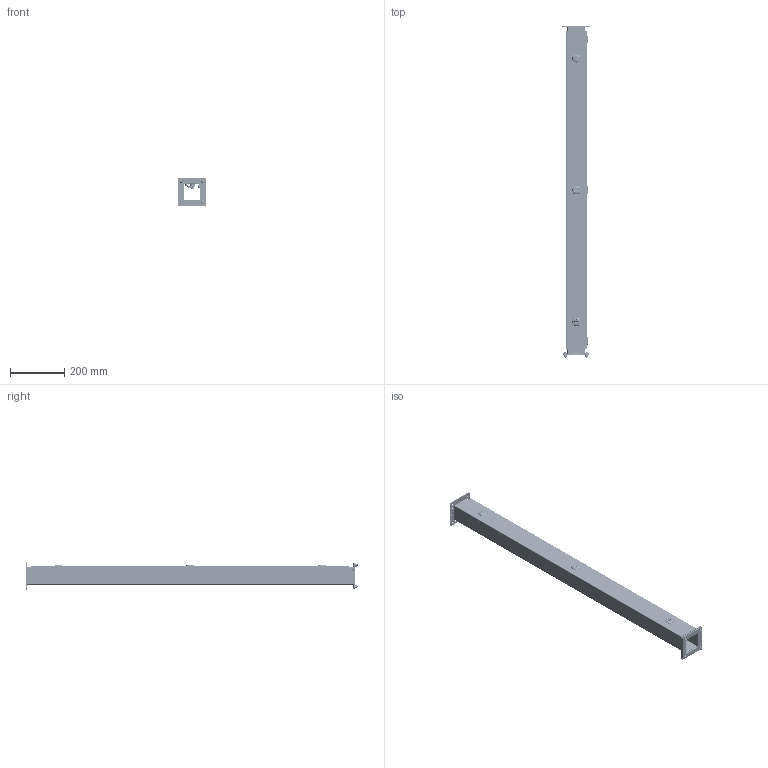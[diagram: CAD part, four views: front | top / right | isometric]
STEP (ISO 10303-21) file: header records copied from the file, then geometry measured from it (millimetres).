
FILE_DESCRIPTION(/* description */ ('1412SS 48" x 2.5" x 2.5" Assembly'),/* implementation_level */ '2;1');
FILE_NAME(/* name */ '1412SS2048.stp',/* time_stamp */ '2024-09-30T17:08:32-04:00',/* author */ ('BoxCad'),/* organization */ (''),/* preprocessor_version */ 'ST-DEVELOPER v20',/* originating_system */ 'Autodesk Inventor 2024',/* authorisation */ '');
FILE_SCHEMA (('AUTOMOTIVE_DESIGN { 1 0 10303 214 3 1 1 }'));
Products named in the file (44): 1412SS2048; 1412SS2048B; 1412SS2048B-P; 1412SS2048C; 1412SS2048C-P; STK-P-02400S; 1412SS2048G; STK-A-33033-1; STK-A-33033-2; STK-A-33033-3; STK-Q-33033-B; STK-Q-33033-S; STK-Q-33033-G; STK-A-880SCQ4CH-SL-1; STK-A-880SCQ4CH-SL-2; STK-A-880SCQ4CH-SL-3; STK-Q-78111; STK-Q-78120; STK-Q-03200; STK-Q-78141; STK-Q-90390; STK-Q-78160; STK-Q-78555; STK-Q-78111-R; STK-A-08126-1; STK-Q-08110_1; STK-A-08126-2; STK-Q-08110_2; STK-A-08126-3; STK-Q-10258; STK-Q-10258-A; STK-Q-10258-B; STK-Q-08110_3; STK-Q-08110-A-1; STK-Q-08110-B; 1412SS2048BC-P; STK-G-01600; STK-Q-07225-1; STK-Q-07225-2; STK-Q-07225-3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
Assembly tree (82 placements, depth 4):
  1412SS2048
    1412SS2048B
      1412SS2048B-P
      STK-P-02400S
    1412SS2048C
      1412SS2048C-P
      STK-P-02400S
      1412SS2048G
      STK-A-33033-1
        STK-Q-33033-B
        STK-Q-33033-S
        STK-Q-33033-G
      STK-A-33033-2
        STK-Q-33033-B
        STK-Q-33033-S
        STK-Q-33033-G
      STK-A-33033-3
        STK-Q-33033-B
        STK-Q-33033-S
        STK-Q-33033-G
      STK-A-880SCQ4CH-SL-1
        STK-Q-78111
        STK-Q-78120
        STK-Q-03200
        STK-Q-78141
        STK-Q-90390
        STK-Q-78160
        STK-Q-78555
        STK-Q-78111-R
      STK-A-880SCQ4CH-SL-2
        STK-Q-78111
        STK-Q-78120
        STK-Q-03200
        STK-Q-78141
        STK-Q-90390
        STK-Q-78160
        STK-Q-78555
        STK-Q-78111-R
      STK-A-880SCQ4CH-SL-3
        STK-Q-78111
        STK-Q-78120
        STK-Q-03200
        STK-Q-78141
        STK-Q-90390
        STK-Q-78160
        STK-Q-78555
        STK-Q-78111-R
    STK-A-08126-1
      STK-Q-10258
        STK-Q-10258-A
        STK-Q-10258-B
      STK-Q-08110_1
        STK-Q-08110-A-1
        STK-Q-08110-B
    STK-A-08126-2
      STK-Q-10258
        STK-Q-10258-A
        STK-Q-10258-B
      STK-Q-08110_2
        STK-Q-08110-A-1
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Bounding box: 104.78 x 1228.34 x 104.78 mm (x, y, z)
Volume: 786891 mm3; surface area: 937182.3 mm2
Topology: 66 solids, 66 shells, 8748 faces, 22004 edges, 13159 vertices
Faces by surface type: plane 3485, bspline 2106, cylinder 2002, torus 745, sphere 250, cone 160
Full cylindrical faces by diameter (mm): 3 x3, 3.175 x3, 4.2 x3, 4.4 x9, 4.45 x3, 4.9 x21, 5 x10, 5.1 x39, 5.537 x3, 5.9 x57, 6 x6, 6.8 x4, 7.137 x4, 7.366 x2, 7.62 x3, 7.925 x8, 8 x8, 9.398 x2, 9.5 x4, 9.6 x3, 10 x3, 12.8 x3, 13 x3, 15.9 x3, 16 x3, 25 x6, 29 x6
Entity records: 113742 total; most frequent: CARTESIAN_POINT 41823, ORIENTED_EDGE 15328, DIRECTION 13634, EDGE_CURVE 7664, AXIS2_PLACEMENT_3D 4803, VERTEX_POINT 4696, LINE 4028, VECTOR 4028
